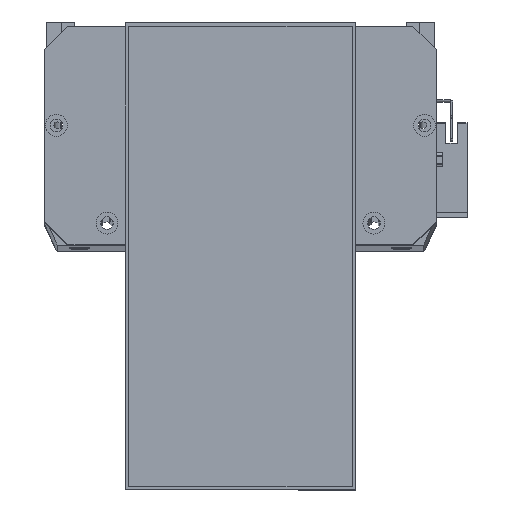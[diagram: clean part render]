
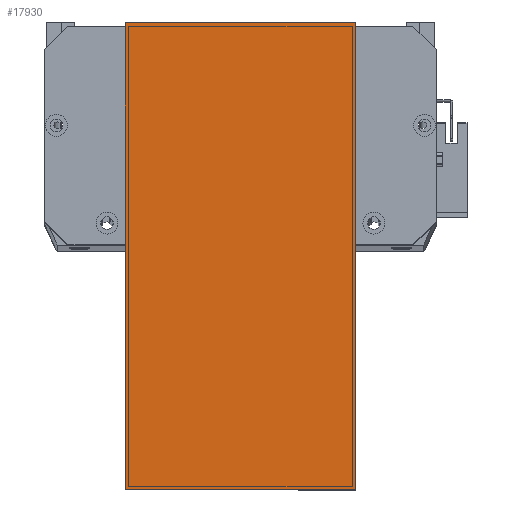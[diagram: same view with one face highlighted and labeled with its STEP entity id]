
A CAD part, top view. The second image highlights one B-rep face of the part: STEP entity #17930.
In plain terms, the highlighted planar face has unit normal (0, 0, 1) as drawn and (0, 0, -1) by its records, which use the part's own axes.
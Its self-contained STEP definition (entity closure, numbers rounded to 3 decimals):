
#44 = DIRECTION ( 'NONE',  ( 1., 0., 0. ) ) ;
#754 = DIRECTION ( 'NONE',  ( 1., 0., 0. ) ) ;
#797 = CARTESIAN_POINT ( 'NONE',  ( 203., 0., 0. ) ) ;
#1819 = EDGE_LOOP ( 'NONE', ( #14562, #5933, #14631, #29140 ) ) ;
#1956 = VERTEX_POINT ( 'NONE', #27972 ) ;
#2707 = VECTOR ( 'NONE', #44, 1000. ) ;
#3338 = CARTESIAN_POINT ( 'NONE',  ( 0., 0., 0. ) ) ;
#3847 = LINE ( 'NONE', #7478, #28103 ) ;
#5690 = DIRECTION ( 'NONE',  ( -1., 0., 0. ) ) ;
#5933 = ORIENTED_EDGE ( 'NONE', *, *, #27558, .F. ) ;
#7478 = CARTESIAN_POINT ( 'NONE',  ( 0., 0., 0. ) ) ;
#8779 = EDGE_CURVE ( 'NONE', #1956, #28063, #27171, .T. ) ;
#9033 = CARTESIAN_POINT ( 'NONE',  ( 203., 19.5, 0. ) ) ;
#12642 = CARTESIAN_POINT ( 'NONE',  ( 0., 19.5, 0. ) ) ;
#13602 = VERTEX_POINT ( 'NONE', #9033 ) ;
#13946 = VECTOR ( 'NONE', #754, 1000. ) ;
#14154 = FACE_OUTER_BOUND ( 'NONE', #1819, .T. ) ;
#14562 = ORIENTED_EDGE ( 'NONE', *, *, #22303, .F. ) ;
#14631 = ORIENTED_EDGE ( 'NONE', *, *, #8779, .T. ) ;
#17930 = ADVANCED_FACE ( 'NONE', ( #14154 ), #29107, .T. ) ;
#18560 = VERTEX_POINT ( 'NONE', #12642 ) ;
#18602 = AXIS2_PLACEMENT_3D ( 'NONE', #3338, #19708, #5690 ) ;
#19153 = VECTOR ( 'NONE', #24299, 1000. ) ;
#19644 = EDGE_CURVE ( 'NONE', #13602, #28063, #25438, .T. ) ;
#19708 = DIRECTION ( 'NONE',  ( 0., 0., -1. ) ) ;
#21430 = LINE ( 'NONE', #28172, #2707 ) ;
#21874 = CARTESIAN_POINT ( 'NONE',  ( -12., 119.5, 0. ) ) ;
#22303 = EDGE_CURVE ( 'NONE', #18560, #13602, #21430, .T. ) ;
#23637 = CARTESIAN_POINT ( 'NONE',  ( 203., 119.5, 0. ) ) ;
#24299 = DIRECTION ( 'NONE',  ( 0., 1., 0. ) ) ;
#25438 = LINE ( 'NONE', #797, #19153 ) ;
#26242 = DIRECTION ( 'NONE',  ( 0., -1., 0. ) ) ;
#27171 = LINE ( 'NONE', #21874, #13946 ) ;
#27558 = EDGE_CURVE ( 'NONE', #1956, #18560, #3847, .T. ) ;
#27972 = CARTESIAN_POINT ( 'NONE',  ( 0., 119.5, 0. ) ) ;
#28063 = VERTEX_POINT ( 'NONE', #23637 ) ;
#28103 = VECTOR ( 'NONE', #26242, 1000. ) ;
#28172 = CARTESIAN_POINT ( 'NONE',  ( -12., 19.5, 0. ) ) ;
#29107 = PLANE ( 'NONE',  #18602 ) ;
#29140 = ORIENTED_EDGE ( 'NONE', *, *, #19644, .F. ) ;
